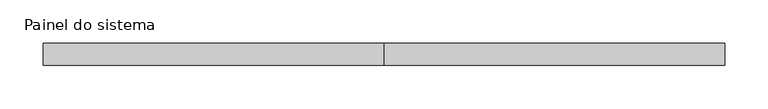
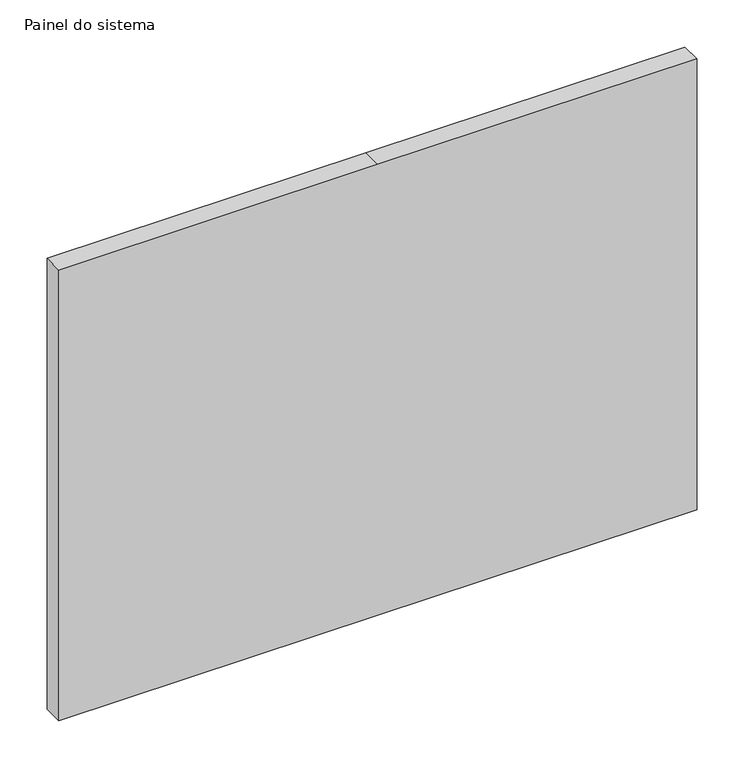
"""IFC4 building model written with IfcOpenShell, lengths in millimetres: plate geometry, Painel do sistema : Envidraçado."""

from ifc_helpers import new_model, si_unit, frame, origin, place, context, project, spatial, polyline, outline, extrude, source, transform, mapped, element, save


def painel_do_sistema_18ad25fa(model_context):
    return source(origin(), model_context, "Body", "SweptSolid", [
        extrude(outline(polyline([(0.0, -391.6666667), (0.0, 0.0), (0.0, 391.6666667), (585.0, 391.6666667), (585.0, 0.0), (585.0, -391.6666667), (0.0, -391.6666667)])), frame((0.0, 24.5, 0.0), z_axis=(0.0, 1.0, 0.0), x_axis=(0.0, 0.0, 1.0)), (0.0, 0.0, 1.0), 25.0),
    ])


if __name__ == "__main__":
    model = new_model("IFC4")
    model_context = context("Model", 3, world=origin())
    ifc_project = project(units=[si_unit("LENGTHUNIT", "METRE", prefix="MILLI")], contexts=[model_context])
    site = spatial("IfcSite", under=ifc_project)
    building = spatial("IfcBuilding", under=site)
    placement = place(None, origin())
    painel_do_sistema_shape = painel_do_sistema_18ad25fa(model_context)
    element("IfcPlate", 1, ObjectType="Painel do sistema : Envidraçado", at=placement, inside=building, context=model_context, shape_type="MappedRepresentation", body=[
        mapped(painel_do_sistema_shape, transform((0.0, 0.0, 0.0), x_axis=(1.0, 0.0, 0.0), y_axis=(0.0, 1.0, 0.0), z_axis=(0.0, 0.0, 1.0))),
    ])
    save(model, "model.ifc")
